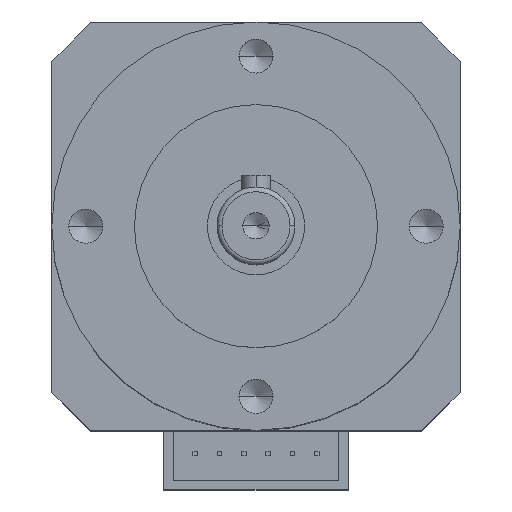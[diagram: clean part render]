
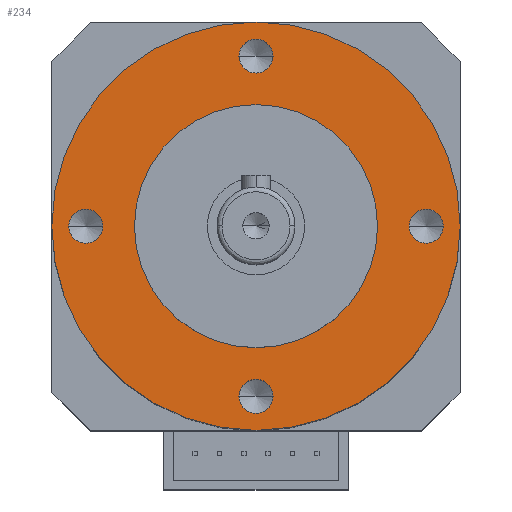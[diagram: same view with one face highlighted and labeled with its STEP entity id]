
A CAD part, top view. The second image highlights one B-rep face of the part: STEP entity #234.
In plain terms, the highlighted planar face has unit normal (0, 0, 1).
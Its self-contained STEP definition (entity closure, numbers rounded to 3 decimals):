
#6 = CIRCLE ( 'NONE', #1288, 12.5 ) ;
#21 = FACE_BOUND ( 'NONE', #434, .T. ) ;
#57 = EDGE_LOOP ( 'NONE', ( #294, #3278 ) ) ;
#87 = AXIS2_PLACEMENT_3D ( 'NONE', #193, #1845, #2338 ) ;
#97 = AXIS2_PLACEMENT_3D ( 'NONE', #2581, #1504, #2020 ) ;
#102 = DIRECTION ( 'NONE',  ( -1., 0., 0. ) ) ;
#152 = VERTEX_POINT ( 'NONE', #1277 ) ;
#193 = CARTESIAN_POINT ( 'NONE',  ( 0., -17.5, 0. ) ) ;
#226 = CIRCLE ( 'NONE', #3174, 1.75 ) ;
#234 = ADVANCED_FACE ( 'NONE', ( #1415, #2686, #2899, #21, #1928, #2945 ), #485, .F. ) ;
#262 = EDGE_CURVE ( 'NONE', #2505, #832, #3491, .T. ) ;
#294 = ORIENTED_EDGE ( 'NONE', *, *, #2397, .F. ) ;
#337 = CARTESIAN_POINT ( 'NONE',  ( -1.75, -17.5, 0. ) ) ;
#349 = ORIENTED_EDGE ( 'NONE', *, *, #1829, .F. ) ;
#404 = VERTEX_POINT ( 'NONE', #3457 ) ;
#434 = EDGE_LOOP ( 'NONE', ( #349, #2420 ) ) ;
#439 = CARTESIAN_POINT ( 'NONE',  ( 0., 0., 0. ) ) ;
#485 = PLANE ( 'NONE',  #854 ) ;
#493 = CARTESIAN_POINT ( 'NONE',  ( 1.75, 17.5, 0. ) ) ;
#499 = EDGE_CURVE ( 'NONE', #404, #3099, #3240, .T. ) ;
#507 = ORIENTED_EDGE ( 'NONE', *, *, #499, .F. ) ;
#568 = CIRCLE ( 'NONE', #1060, 1.75 ) ;
#570 = CARTESIAN_POINT ( 'NONE',  ( 12.5, 0., 0. ) ) ;
#592 = DIRECTION ( 'NONE',  ( 0., 0., 1. ) ) ;
#671 = DIRECTION ( 'NONE',  ( -1., 0., 0. ) ) ;
#782 = DIRECTION ( 'NONE',  ( -1., 0., 0. ) ) ;
#832 = VERTEX_POINT ( 'NONE', #1711 ) ;
#849 = ORIENTED_EDGE ( 'NONE', *, *, #3394, .F. ) ;
#854 = AXIS2_PLACEMENT_3D ( 'NONE', #1853, #2685, #2120 ) ;
#866 = DIRECTION ( 'NONE',  ( 0., 0., -1. ) ) ;
#874 = ORIENTED_EDGE ( 'NONE', *, *, #2752, .F. ) ;
#908 = EDGE_CURVE ( 'NONE', #152, #1424, #2423, .T. ) ;
#979 = DIRECTION ( 'NONE',  ( 0., 0., 1. ) ) ;
#993 = CARTESIAN_POINT ( 'NONE',  ( 0., 0., 0. ) ) ;
#1060 = AXIS2_PLACEMENT_3D ( 'NONE', #2331, #3134, #2042 ) ;
#1201 = CIRCLE ( 'NONE', #1643, 21. ) ;
#1251 = AXIS2_PLACEMENT_3D ( 'NONE', #3250, #1376, #3018 ) ;
#1253 = EDGE_LOOP ( 'NONE', ( #1377, #2764 ) ) ;
#1265 = EDGE_LOOP ( 'NONE', ( #1693, #1962 ) ) ;
#1277 = CARTESIAN_POINT ( 'NONE',  ( -12.5, 0., 0. ) ) ;
#1285 = CARTESIAN_POINT ( 'NONE',  ( -19.25, 0., 0. ) ) ;
#1288 = AXIS2_PLACEMENT_3D ( 'NONE', #439, #979, #3161 ) ;
#1329 = CARTESIAN_POINT ( 'NONE',  ( 0., 17.5, 0. ) ) ;
#1353 = CIRCLE ( 'NONE', #97, 1.75 ) ;
#1376 = DIRECTION ( 'NONE',  ( 0., 0., 1. ) ) ;
#1377 = ORIENTED_EDGE ( 'NONE', *, *, #3313, .F. ) ;
#1408 = CIRCLE ( 'NONE', #3417, 1.75 ) ;
#1415 = FACE_BOUND ( 'NONE', #57, .T. ) ;
#1424 = VERTEX_POINT ( 'NONE', #570 ) ;
#1435 = DIRECTION ( 'NONE',  ( -1., 0., 0. ) ) ;
#1441 = CARTESIAN_POINT ( 'NONE',  ( 17.5, 0., 0. ) ) ;
#1504 = DIRECTION ( 'NONE',  ( 0., 0., 1. ) ) ;
#1529 = EDGE_LOOP ( 'NONE', ( #2588, #849 ) ) ;
#1546 = AXIS2_PLACEMENT_3D ( 'NONE', #2807, #592, #1435 ) ;
#1586 = VERTEX_POINT ( 'NONE', #2799 ) ;
#1640 = CARTESIAN_POINT ( 'NONE',  ( 17.5, 0., 0. ) ) ;
#1643 = AXIS2_PLACEMENT_3D ( 'NONE', #1690, #866, #2521 ) ;
#1647 = CARTESIAN_POINT ( 'NONE',  ( -15.75, 0., 0. ) ) ;
#1690 = CARTESIAN_POINT ( 'NONE',  ( 0., 0., 0. ) ) ;
#1693 = ORIENTED_EDGE ( 'NONE', *, *, #2624, .F. ) ;
#1711 = CARTESIAN_POINT ( 'NONE',  ( -1.75, 17.5, 0. ) ) ;
#1767 = CARTESIAN_POINT ( 'NONE',  ( 19.25, 0., 0. ) ) ;
#1775 = AXIS2_PLACEMENT_3D ( 'NONE', #3251, #1873, #782 ) ;
#1829 = EDGE_CURVE ( 'NONE', #2498, #2604, #1353, .T. ) ;
#1845 = DIRECTION ( 'NONE',  ( 0., 0., 1. ) ) ;
#1853 = CARTESIAN_POINT ( 'NONE',  ( -21., -21., 0. ) ) ;
#1873 = DIRECTION ( 'NONE',  ( 0., 0., -1. ) ) ;
#1889 = DIRECTION ( 'NONE',  ( 0., 0., 1. ) ) ;
#1928 = FACE_BOUND ( 'NONE', #1529, .T. ) ;
#1942 = CIRCLE ( 'NONE', #1251, 1.75 ) ;
#1962 = ORIENTED_EDGE ( 'NONE', *, *, #262, .F. ) ;
#1973 = DIRECTION ( 'NONE',  ( 0., 0., 1. ) ) ;
#2020 = DIRECTION ( 'NONE',  ( -1., 0., 0. ) ) ;
#2042 = DIRECTION ( 'NONE',  ( -1., 0., 0. ) ) ;
#2120 = DIRECTION ( 'NONE',  ( -1., 0., 0. ) ) ;
#2295 = VERTEX_POINT ( 'NONE', #3023 ) ;
#2331 = CARTESIAN_POINT ( 'NONE',  ( 0., -17.5, 0. ) ) ;
#2335 = AXIS2_PLACEMENT_3D ( 'NONE', #1329, #3500, #3490 ) ;
#2338 = DIRECTION ( 'NONE',  ( -1., 0., 0. ) ) ;
#2355 = VERTEX_POINT ( 'NONE', #1767 ) ;
#2397 = EDGE_CURVE ( 'NONE', #2695, #1586, #568, .T. ) ;
#2420 = ORIENTED_EDGE ( 'NONE', *, *, #3027, .F. ) ;
#2423 = CIRCLE ( 'NONE', #3164, 12.5 ) ;
#2498 = VERTEX_POINT ( 'NONE', #1285 ) ;
#2505 = VERTEX_POINT ( 'NONE', #493 ) ;
#2521 = DIRECTION ( 'NONE',  ( -1., 0., 0. ) ) ;
#2581 = CARTESIAN_POINT ( 'NONE',  ( -17.5, 0., 0. ) ) ;
#2588 = ORIENTED_EDGE ( 'NONE', *, *, #908, .F. ) ;
#2604 = VERTEX_POINT ( 'NONE', #1647 ) ;
#2624 = EDGE_CURVE ( 'NONE', #832, #2505, #1942, .T. ) ;
#2685 = DIRECTION ( 'NONE',  ( 0., 0., -1. ) ) ;
#2686 = FACE_BOUND ( 'NONE', #1253, .T. ) ;
#2695 = VERTEX_POINT ( 'NONE', #337 ) ;
#2732 = CIRCLE ( 'NONE', #1546, 1.75 ) ;
#2752 = EDGE_CURVE ( 'NONE', #3099, #404, #1201, .T. ) ;
#2764 = ORIENTED_EDGE ( 'NONE', *, *, #2976, .F. ) ;
#2799 = CARTESIAN_POINT ( 'NONE',  ( 1.75, -17.5, 0. ) ) ;
#2807 = CARTESIAN_POINT ( 'NONE',  ( -17.5, 0., 0. ) ) ;
#2856 = DIRECTION ( 'NONE',  ( 0., 0., 1. ) ) ;
#2899 = FACE_BOUND ( 'NONE', #1265, .T. ) ;
#2945 = FACE_OUTER_BOUND ( 'NONE', #3204, .T. ) ;
#2952 = EDGE_CURVE ( 'NONE', #1586, #2695, #3354, .T. ) ;
#2976 = EDGE_CURVE ( 'NONE', #2355, #2295, #226, .T. ) ;
#3004 = DIRECTION ( 'NONE',  ( -1., 0., 0. ) ) ;
#3018 = DIRECTION ( 'NONE',  ( -1., 0., 0. ) ) ;
#3023 = CARTESIAN_POINT ( 'NONE',  ( 15.75, 0., 0. ) ) ;
#3027 = EDGE_CURVE ( 'NONE', #2604, #2498, #2732, .T. ) ;
#3088 = CARTESIAN_POINT ( 'NONE',  ( -21., 0., 0. ) ) ;
#3099 = VERTEX_POINT ( 'NONE', #3088 ) ;
#3134 = DIRECTION ( 'NONE',  ( 0., 0., 1. ) ) ;
#3161 = DIRECTION ( 'NONE',  ( -1., 0., 0. ) ) ;
#3164 = AXIS2_PLACEMENT_3D ( 'NONE', #993, #2856, #671 ) ;
#3174 = AXIS2_PLACEMENT_3D ( 'NONE', #1640, #1889, #3004 ) ;
#3204 = EDGE_LOOP ( 'NONE', ( #507, #874 ) ) ;
#3240 = CIRCLE ( 'NONE', #1775, 21. ) ;
#3250 = CARTESIAN_POINT ( 'NONE',  ( 0., 17.5, 0. ) ) ;
#3251 = CARTESIAN_POINT ( 'NONE',  ( 0., 0., 0. ) ) ;
#3278 = ORIENTED_EDGE ( 'NONE', *, *, #2952, .F. ) ;
#3313 = EDGE_CURVE ( 'NONE', #2295, #2355, #1408, .T. ) ;
#3354 = CIRCLE ( 'NONE', #87, 1.75 ) ;
#3394 = EDGE_CURVE ( 'NONE', #1424, #152, #6, .T. ) ;
#3417 = AXIS2_PLACEMENT_3D ( 'NONE', #1441, #1973, #102 ) ;
#3457 = CARTESIAN_POINT ( 'NONE',  ( 21., 0., 0. ) ) ;
#3490 = DIRECTION ( 'NONE',  ( -1., 0., 0. ) ) ;
#3491 = CIRCLE ( 'NONE', #2335, 1.75 ) ;
#3500 = DIRECTION ( 'NONE',  ( 0., 0., 1. ) ) ;
